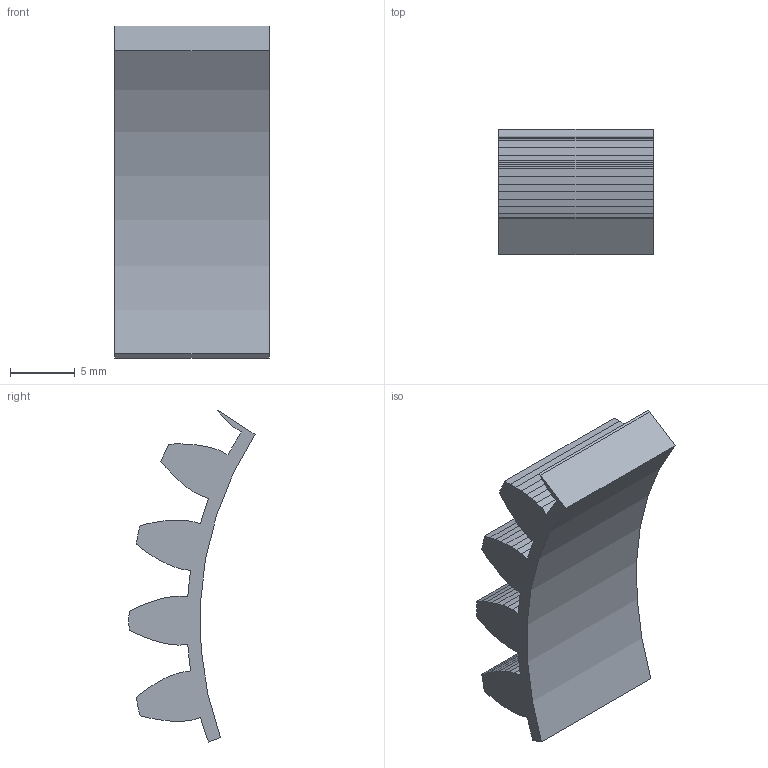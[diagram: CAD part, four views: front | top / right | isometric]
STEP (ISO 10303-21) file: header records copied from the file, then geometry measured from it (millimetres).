
FILE_DESCRIPTION(('Open CASCADE Model'),'2;1');
FILE_NAME('Open CASCADE Shape Model','2026-10-16T05:25:09',('Author'),( 'Open CASCADE'),'Open CASCADE STEP processor 7.9','Open CASCADE 7.9' ,'Unknown');
FILE_SCHEMA(('AUTOMOTIVE_DESIGN { 1 0 10303 214 1 1 1 1 }'));
Length unit declared in the file: millimetre
Products named in the file (1): Open CASCADE STEP translator 7.9 25
Bounding box: 12 x 9.78 x 25.74 mm (x, y, z)
Volume: 968.6 mm3; surface area: 1190.2 mm2
Topology: 1 solids, 1 shells, 115 faces, 339 edges, 226 vertices
Faces by surface type: plane 114, cylinder 1
Entity records: 8162 total; most frequent: CARTESIAN_POINT 1387, DIRECTION 1233, LINE 997, VECTOR 997, ORIENTED_EDGE 678, PCURVE 678, DEFINITIONAL_REPRESENTATION 678, EDGE_CURVE 339
